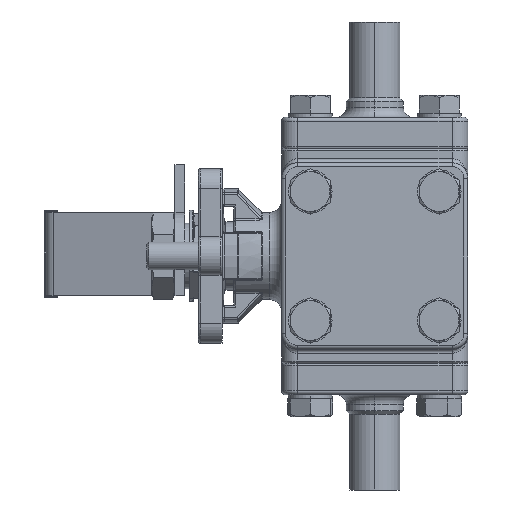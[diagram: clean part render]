
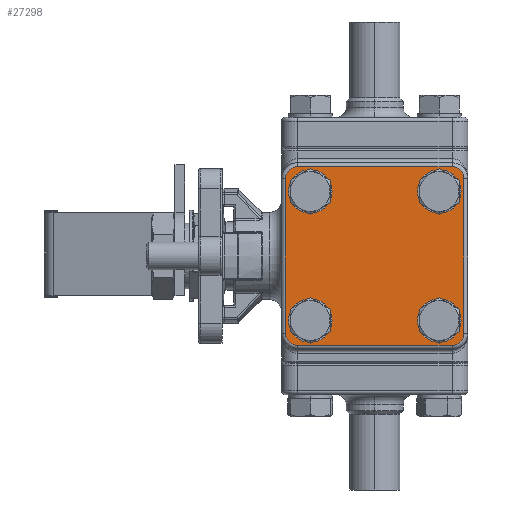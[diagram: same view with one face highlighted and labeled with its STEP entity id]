
A CAD part, left-side view. The second image highlights one B-rep face of the part: STEP entity #27298.
In plain terms, the highlighted planar face has unit normal (-1, 0, 0) as drawn and (0, 0, 1) by its records, which use the part's own axes.
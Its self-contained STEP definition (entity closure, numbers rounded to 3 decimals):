
#681 = VERTEX_POINT ( 'NONE', #14744 ) ;
#856 = FACE_BOUND ( 'NONE', #4945, .T. ) ;
#960 = DIRECTION ( 'NONE',  ( 0., 0., 1. ) ) ;
#1092 = VERTEX_POINT ( 'NONE', #11004 ) ;
#1290 = ORIENTED_EDGE ( 'NONE', *, *, #12270, .F. ) ;
#2365 = CARTESIAN_POINT ( 'NONE',  ( 16.263, 16.263, 5. ) ) ;
#2822 = ORIENTED_EDGE ( 'NONE', *, *, #6411, .F. ) ;
#3193 = DIRECTION ( 'NONE',  ( 0., 0., 1. ) ) ;
#3207 = AXIS2_PLACEMENT_3D ( 'NONE', #32506, #16399, #8755 ) ;
#3277 = VERTEX_POINT ( 'NONE', #19222 ) ;
#3460 = DIRECTION ( 'NONE',  ( 1., 0., 0. ) ) ;
#3755 = DIRECTION ( 'NONE',  ( 1., 0., 0. ) ) ;
#3792 = AXIS2_PLACEMENT_3D ( 'NONE', #4712, #17606, #20375 ) ;
#3914 = DIRECTION ( 'NONE',  ( 0., 0., 1. ) ) ;
#4052 = VERTEX_POINT ( 'NONE', #30217 ) ;
#4368 = CARTESIAN_POINT ( 'NONE',  ( 12.513, 16.263, 5. ) ) ;
#4550 = EDGE_CURVE ( 'NONE', #15937, #23291, #20535, .T. ) ;
#4600 = CARTESIAN_POINT ( 'NONE',  ( -19.5, 22.5, 5. ) ) ;
#4641 = EDGE_CURVE ( 'NONE', #9198, #15937, #27532, .T. ) ;
#4677 = DIRECTION ( 'NONE',  ( 1., 0., 0. ) ) ;
#4712 = CARTESIAN_POINT ( 'NONE',  ( -16.263, -16.263, 5. ) ) ;
#4849 = VERTEX_POINT ( 'NONE', #23068 ) ;
#4945 = EDGE_LOOP ( 'NONE', ( #2822, #27190 ) ) ;
#5027 = CARTESIAN_POINT ( 'NONE',  ( 16.263, -16.263, 5. ) ) ;
#5273 = VERTEX_POINT ( 'NONE', #4368 ) ;
#5862 = DIRECTION ( 'NONE',  ( 0., 0., 1. ) ) ;
#5965 = VERTEX_POINT ( 'NONE', #18685 ) ;
#6111 = AXIS2_PLACEMENT_3D ( 'NONE', #5027, #20714, #31428 ) ;
#6254 = EDGE_CURVE ( 'NONE', #26732, #1092, #21254, .T. ) ;
#6378 = DIRECTION ( 'NONE',  ( 0., 0., 1. ) ) ;
#6411 = EDGE_CURVE ( 'NONE', #3277, #26423, #9754, .T. ) ;
#6630 = CIRCLE ( 'NONE', #23773, 3.75 ) ;
#7298 = DIRECTION ( 'NONE',  ( 0., 0., 1. ) ) ;
#7477 = ORIENTED_EDGE ( 'NONE', *, *, #28592, .F. ) ;
#7718 = EDGE_CURVE ( 'NONE', #4052, #9198, #14661, .T. ) ;
#7753 = CARTESIAN_POINT ( 'NONE',  ( -20.013, 16.263, 5. ) ) ;
#7756 = AXIS2_PLACEMENT_3D ( 'NONE', #30142, #6378, #3755 ) ;
#7835 = CARTESIAN_POINT ( 'NONE',  ( 22.5, 19.5, 5. ) ) ;
#7907 = DIRECTION ( 'NONE',  ( 0., 0., 1. ) ) ;
#8576 = CARTESIAN_POINT ( 'NONE',  ( -19.5, 19.5, 5. ) ) ;
#8689 = EDGE_LOOP ( 'NONE', ( #13045, #19225, #29547, #23547, #19060, #11530, #29895, #22365 ) ) ;
#8755 = DIRECTION ( 'NONE',  ( 1., 0., 0. ) ) ;
#9198 = VERTEX_POINT ( 'NONE', #11281 ) ;
#9384 = CARTESIAN_POINT ( 'NONE',  ( -22.5, -19.5, 5. ) ) ;
#9754 = CIRCLE ( 'NONE', #6111, 3.75 ) ;
#9903 = EDGE_LOOP ( 'NONE', ( #26032, #1290 ) ) ;
#10294 = FACE_BOUND ( 'NONE', #20777, .T. ) ;
#11004 = CARTESIAN_POINT ( 'NONE',  ( -12.513, 16.263, 5. ) ) ;
#11281 = CARTESIAN_POINT ( 'NONE',  ( 22.5, -19.5, 5. ) ) ;
#11530 = ORIENTED_EDGE ( 'NONE', *, *, #26746, .T. ) ;
#11910 = DIRECTION ( 'NONE',  ( 0., -1., 0. ) ) ;
#12270 = EDGE_CURVE ( 'NONE', #25233, #5273, #33373, .T. ) ;
#12380 = VECTOR ( 'NONE', #20833, 1000. ) ;
#12386 = DIRECTION ( 'NONE',  ( 0., 0., 1. ) ) ;
#13045 = ORIENTED_EDGE ( 'NONE', *, *, #4641, .T. ) ;
#13115 = CIRCLE ( 'NONE', #7756, 3.75 ) ;
#13145 = DIRECTION ( 'NONE',  ( 1., 0., 0. ) ) ;
#13209 = ORIENTED_EDGE ( 'NONE', *, *, #17766, .F. ) ;
#13593 = DIRECTION ( 'NONE',  ( 1., 0., 0. ) ) ;
#14485 = CIRCLE ( 'NONE', #15476, 3. ) ;
#14525 = CARTESIAN_POINT ( 'NONE',  ( 20.013, 16.263, 5. ) ) ;
#14661 = CIRCLE ( 'NONE', #23022, 3. ) ;
#14744 = CARTESIAN_POINT ( 'NONE',  ( -20.013, -16.263, 5. ) ) ;
#15476 = AXIS2_PLACEMENT_3D ( 'NONE', #8576, #3193, #13593 ) ;
#15937 = VERTEX_POINT ( 'NONE', #7835 ) ;
#15967 = FACE_BOUND ( 'NONE', #9903, .T. ) ;
#16130 = CARTESIAN_POINT ( 'NONE',  ( 16.263, 16.263, 5. ) ) ;
#16399 = DIRECTION ( 'NONE',  ( 0., 0., 1. ) ) ;
#16478 = CARTESIAN_POINT ( 'NONE',  ( -12.513, -16.263, 5. ) ) ;
#16848 = DIRECTION ( 'NONE',  ( 0., 1., 0. ) ) ;
#16932 = DIRECTION ( 'NONE',  ( 0., 0., 1. ) ) ;
#17033 = CARTESIAN_POINT ( 'NONE',  ( -16.263, 16.263, 5. ) ) ;
#17251 = AXIS2_PLACEMENT_3D ( 'NONE', #17033, #3914, #27552 ) ;
#17297 = CARTESIAN_POINT ( 'NONE',  ( -22.5, 19.5, 5. ) ) ;
#17606 = DIRECTION ( 'NONE',  ( 0., 0., 1. ) ) ;
#17700 = EDGE_CURVE ( 'NONE', #22809, #5965, #22047, .T. ) ;
#17766 = EDGE_CURVE ( 'NONE', #21520, #681, #27444, .T. ) ;
#18685 = CARTESIAN_POINT ( 'NONE',  ( -22.5, -19.5, 5. ) ) ;
#19060 = ORIENTED_EDGE ( 'NONE', *, *, #17700, .T. ) ;
#19222 = CARTESIAN_POINT ( 'NONE',  ( 12.513, -16.263, 5. ) ) ;
#19225 = ORIENTED_EDGE ( 'NONE', *, *, #4550, .T. ) ;
#19283 = FACE_OUTER_BOUND ( 'NONE', #8689, .T. ) ;
#19347 = LINE ( 'NONE', #31551, #12380 ) ;
#19641 = CARTESIAN_POINT ( 'NONE',  ( 19.5, -22.5, 5. ) ) ;
#20094 = VECTOR ( 'NONE', #24621, 1000. ) ;
#20375 = DIRECTION ( 'NONE',  ( 1., 0., 0. ) ) ;
#20535 = CIRCLE ( 'NONE', #3207, 3. ) ;
#20714 = DIRECTION ( 'NONE',  ( 0., 0., 1. ) ) ;
#20777 = EDGE_LOOP ( 'NONE', ( #21409, #13209 ) ) ;
#20833 = DIRECTION ( 'NONE',  ( -1., 0., 0. ) ) ;
#20921 = LINE ( 'NONE', #19641, #20094 ) ;
#21135 = CARTESIAN_POINT ( 'NONE',  ( 19.5, 22.5, 5. ) ) ;
#21254 = CIRCLE ( 'NONE', #17251, 3.75 ) ;
#21409 = ORIENTED_EDGE ( 'NONE', *, *, #26142, .F. ) ;
#21520 = VERTEX_POINT ( 'NONE', #16478 ) ;
#21792 = CARTESIAN_POINT ( 'NONE',  ( 22.5, 19.5, 5. ) ) ;
#21887 = EDGE_CURVE ( 'NONE', #23647, #22809, #14485, .T. ) ;
#22047 = LINE ( 'NONE', #9384, #29900 ) ;
#22153 = FACE_BOUND ( 'NONE', #33327, .T. ) ;
#22222 = DIRECTION ( 'NONE',  ( 1., 0., 0. ) ) ;
#22365 = ORIENTED_EDGE ( 'NONE', *, *, #7718, .T. ) ;
#22809 = VERTEX_POINT ( 'NONE', #17297 ) ;
#22836 = PLANE ( 'NONE',  #30635 ) ;
#23022 = AXIS2_PLACEMENT_3D ( 'NONE', #32403, #960, #33437 ) ;
#23068 = CARTESIAN_POINT ( 'NONE',  ( -19.5, -22.5, 5. ) ) ;
#23291 = VERTEX_POINT ( 'NONE', #21135 ) ;
#23368 = CARTESIAN_POINT ( 'NONE',  ( -16.263, -16.263, 5. ) ) ;
#23547 = ORIENTED_EDGE ( 'NONE', *, *, #21887, .T. ) ;
#23647 = VERTEX_POINT ( 'NONE', #4600 ) ;
#23773 = AXIS2_PLACEMENT_3D ( 'NONE', #2365, #7298, #28640 ) ;
#24437 = AXIS2_PLACEMENT_3D ( 'NONE', #28745, #26118, #4677 ) ;
#24604 = CIRCLE ( 'NONE', #30232, 3.75 ) ;
#24621 = DIRECTION ( 'NONE',  ( 1., 0., 0. ) ) ;
#24700 = CIRCLE ( 'NONE', #24437, 3. ) ;
#24905 = CARTESIAN_POINT ( 'NONE',  ( -16.263, 16.263, 5. ) ) ;
#25233 = VERTEX_POINT ( 'NONE', #14525 ) ;
#26032 = ORIENTED_EDGE ( 'NONE', *, *, #26769, .F. ) ;
#26118 = DIRECTION ( 'NONE',  ( 0., 0., 1. ) ) ;
#26142 = EDGE_CURVE ( 'NONE', #681, #21520, #26387, .T. ) ;
#26148 = EDGE_CURVE ( 'NONE', #23291, #23647, #19347, .T. ) ;
#26387 = CIRCLE ( 'NONE', #29061, 3.75 ) ;
#26423 = VERTEX_POINT ( 'NONE', #29461 ) ;
#26732 = VERTEX_POINT ( 'NONE', #7753 ) ;
#26746 = EDGE_CURVE ( 'NONE', #5965, #4849, #24700, .T. ) ;
#26769 = EDGE_CURVE ( 'NONE', #5273, #25233, #6630, .T. ) ;
#27190 = ORIENTED_EDGE ( 'NONE', *, *, #27491, .F. ) ;
#27298 = ADVANCED_FACE ( 'NONE', ( #19283, #10294, #15967, #856, #22153 ), #22836, .T. ) ;
#27444 = CIRCLE ( 'NONE', #3792, 3.75 ) ;
#27491 = EDGE_CURVE ( 'NONE', #26423, #3277, #13115, .T. ) ;
#27532 = LINE ( 'NONE', #21792, #30822 ) ;
#27552 = DIRECTION ( 'NONE',  ( 1., 0., 0. ) ) ;
#28137 = CARTESIAN_POINT ( 'NONE',  ( 19.5, -19.5, 5. ) ) ;
#28226 = ORIENTED_EDGE ( 'NONE', *, *, #6254, .F. ) ;
#28592 = EDGE_CURVE ( 'NONE', #1092, #26732, #24604, .T. ) ;
#28600 = DIRECTION ( 'NONE',  ( 1., 0., 0. ) ) ;
#28640 = DIRECTION ( 'NONE',  ( 1., 0., 0. ) ) ;
#28745 = CARTESIAN_POINT ( 'NONE',  ( -19.5, -19.5, 5. ) ) ;
#29061 = AXIS2_PLACEMENT_3D ( 'NONE', #23368, #7907, #13145 ) ;
#29461 = CARTESIAN_POINT ( 'NONE',  ( 20.013, -16.263, 5. ) ) ;
#29547 = ORIENTED_EDGE ( 'NONE', *, *, #26148, .T. ) ;
#29895 = ORIENTED_EDGE ( 'NONE', *, *, #33619, .T. ) ;
#29900 = VECTOR ( 'NONE', #11910, 1000. ) ;
#30142 = CARTESIAN_POINT ( 'NONE',  ( 16.263, -16.263, 5. ) ) ;
#30217 = CARTESIAN_POINT ( 'NONE',  ( 19.5, -22.5, 5. ) ) ;
#30232 = AXIS2_PLACEMENT_3D ( 'NONE', #24905, #16932, #22222 ) ;
#30635 = AXIS2_PLACEMENT_3D ( 'NONE', #28137, #12386, #28600 ) ;
#30822 = VECTOR ( 'NONE', #16848, 1000. ) ;
#31428 = DIRECTION ( 'NONE',  ( 1., 0., 0. ) ) ;
#31551 = CARTESIAN_POINT ( 'NONE',  ( -19.5, 22.5, 5. ) ) ;
#32233 = AXIS2_PLACEMENT_3D ( 'NONE', #16130, #5862, #3460 ) ;
#32403 = CARTESIAN_POINT ( 'NONE',  ( 19.5, -19.5, 5. ) ) ;
#32506 = CARTESIAN_POINT ( 'NONE',  ( 19.5, 19.5, 5. ) ) ;
#33327 = EDGE_LOOP ( 'NONE', ( #28226, #7477 ) ) ;
#33373 = CIRCLE ( 'NONE', #32233, 3.75 ) ;
#33437 = DIRECTION ( 'NONE',  ( 1., 0., 0. ) ) ;
#33619 = EDGE_CURVE ( 'NONE', #4849, #4052, #20921, .T. ) ;
